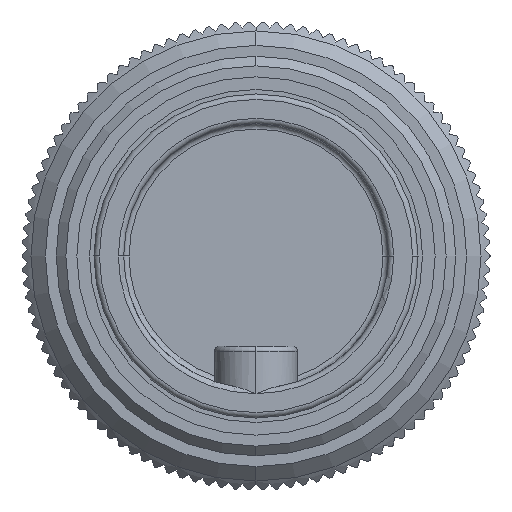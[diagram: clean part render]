
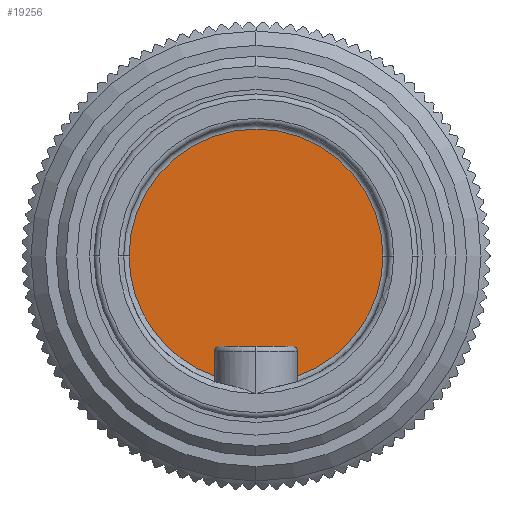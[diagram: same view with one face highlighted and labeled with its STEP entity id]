
A CAD part, front view. The second image highlights one B-rep face of the part: STEP entity #19256.
In plain terms, the highlighted planar face has unit normal (0, -1, 0).
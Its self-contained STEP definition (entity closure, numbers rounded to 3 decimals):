
#569 = DIRECTION ( 'NONE',  ( 1., 0., 0. ) ) ;
#680 = EDGE_CURVE ( 'NONE', #8877, #2354, #2037, .T. ) ;
#1071 = CARTESIAN_POINT ( 'NONE',  ( 0., -2.177, 0. ) ) ;
#1124 = CARTESIAN_POINT ( 'NONE',  ( -3.525, -2.177, -5. ) ) ;
#1582 = VECTOR ( 'NONE', #5719, 1000. ) ;
#2037 = LINE ( 'NONE', #15277, #16325 ) ;
#2046 = AXIS2_PLACEMENT_3D ( 'NONE', #4846, #15487, #6382 ) ;
#2069 = LINE ( 'NONE', #1124, #1582 ) ;
#2104 = VECTOR ( 'NONE', #13968, 1000. ) ;
#2354 = VERTEX_POINT ( 'NONE', #19183 ) ;
#2531 = DIRECTION ( 'NONE',  ( 0., -1., 0. ) ) ;
#2609 = DIRECTION ( 'NONE',  ( 1., 0., 0. ) ) ;
#2700 = EDGE_CURVE ( 'NONE', #4603, #7953, #2069, .T. ) ;
#3757 = CIRCLE ( 'NONE', #11935, 0.3 ) ;
#3804 = ORIENTED_EDGE ( 'NONE', *, *, #16288, .F. ) ;
#4158 = ORIENTED_EDGE ( 'NONE', *, *, #14386, .T. ) ;
#4603 = VERTEX_POINT ( 'NONE', #12903 ) ;
#4640 = DIRECTION ( 'NONE',  ( 0., 0., -1. ) ) ;
#4846 = CARTESIAN_POINT ( 'NONE',  ( 0., -2.177, 0. ) ) ;
#4861 = CARTESIAN_POINT ( 'NONE',  ( -2.3, -2.177, 0. ) ) ;
#5447 = ORIENTED_EDGE ( 'NONE', *, *, #8343, .F. ) ;
#5676 = CARTESIAN_POINT ( 'NONE',  ( -7.05, -2.177, 0. ) ) ;
#5719 = DIRECTION ( 'NONE',  ( 1., 0., 0. ) ) ;
#6382 = DIRECTION ( 'NONE',  ( 1., 0., 0. ) ) ;
#6383 = CARTESIAN_POINT ( 'NONE',  ( 0., -2.177, 0. ) ) ;
#6915 = DIRECTION ( 'NONE',  ( 1., 0., 0. ) ) ;
#7514 = AXIS2_PLACEMENT_3D ( 'NONE', #11410, #16028, #6915 ) ;
#7735 = CIRCLE ( 'NONE', #16008, 7.05 ) ;
#7901 = DIRECTION ( 'NONE',  ( 1., 0., 0. ) ) ;
#7953 = VERTEX_POINT ( 'NONE', #8328 ) ;
#8198 = AXIS2_PLACEMENT_3D ( 'NONE', #6383, #17001, #7901 ) ;
#8308 = CARTESIAN_POINT ( 'NONE',  ( 2.3, -2.177, -5.3 ) ) ;
#8328 = CARTESIAN_POINT ( 'NONE',  ( 2., -2.177, -5. ) ) ;
#8343 = EDGE_CURVE ( 'NONE', #14898, #18788, #9765, .T. ) ;
#8739 = EDGE_LOOP ( 'NONE', ( #4158, #16033, #13840, #13740, #18569, #12755, #3804, #5447 ) ) ;
#8877 = VERTEX_POINT ( 'NONE', #8308 ) ;
#9676 = DIRECTION ( 'NONE',  ( 0., -1., 0. ) ) ;
#9765 = CIRCLE ( 'NONE', #8198, 7.05 ) ;
#11410 = CARTESIAN_POINT ( 'NONE',  ( -3.525, -2.177, 0. ) ) ;
#11623 = VERTEX_POINT ( 'NONE', #16893 ) ;
#11628 = CARTESIAN_POINT ( 'NONE',  ( 2., -2.177, -5.3 ) ) ;
#11694 = DIRECTION ( 'NONE',  ( 0., 1., 0. ) ) ;
#11822 = EDGE_CURVE ( 'NONE', #11623, #2354, #7735, .T. ) ;
#11935 = AXIS2_PLACEMENT_3D ( 'NONE', #11628, #2531, #13152 ) ;
#12738 = EDGE_CURVE ( 'NONE', #4603, #19700, #15926, .T. ) ;
#12755 = ORIENTED_EDGE ( 'NONE', *, *, #11822, .F. ) ;
#12903 = CARTESIAN_POINT ( 'NONE',  ( -2., -2.177, -5. ) ) ;
#13152 = DIRECTION ( 'NONE',  ( 1., 0., 0. ) ) ;
#13404 = EDGE_CURVE ( 'NONE', #8877, #7953, #3757, .T. ) ;
#13740 = ORIENTED_EDGE ( 'NONE', *, *, #13404, .F. ) ;
#13840 = ORIENTED_EDGE ( 'NONE', *, *, #2700, .T. ) ;
#13968 = DIRECTION ( 'NONE',  ( 0., 0., 1. ) ) ;
#14386 = EDGE_CURVE ( 'NONE', #14898, #19700, #17795, .T. ) ;
#14495 = PLANE ( 'NONE',  #7514 ) ;
#14854 = AXIS2_PLACEMENT_3D ( 'NONE', #18786, #9676, #569 ) ;
#14898 = VERTEX_POINT ( 'NONE', #16872 ) ;
#15277 = CARTESIAN_POINT ( 'NONE',  ( 2.3, -2.177, 0. ) ) ;
#15487 = DIRECTION ( 'NONE',  ( 0., 1., 0. ) ) ;
#15926 = CIRCLE ( 'NONE', #14854, 0.3 ) ;
#15947 = CARTESIAN_POINT ( 'NONE',  ( -2.3, -2.177, -5.3 ) ) ;
#16008 = AXIS2_PLACEMENT_3D ( 'NONE', #1071, #11694, #2609 ) ;
#16022 = FACE_OUTER_BOUND ( 'NONE', #8739, .T. ) ;
#16028 = DIRECTION ( 'NONE',  ( 0., -1., 0. ) ) ;
#16033 = ORIENTED_EDGE ( 'NONE', *, *, #12738, .F. ) ;
#16288 = EDGE_CURVE ( 'NONE', #18788, #11623, #19625, .T. ) ;
#16325 = VECTOR ( 'NONE', #4640, 1000. ) ;
#16872 = CARTESIAN_POINT ( 'NONE',  ( -2.3, -2.177, -6.664 ) ) ;
#16893 = CARTESIAN_POINT ( 'NONE',  ( 7.05, -2.177, 0. ) ) ;
#17001 = DIRECTION ( 'NONE',  ( 0., 1., 0. ) ) ;
#17795 = LINE ( 'NONE', #4861, #2104 ) ;
#18569 = ORIENTED_EDGE ( 'NONE', *, *, #680, .T. ) ;
#18786 = CARTESIAN_POINT ( 'NONE',  ( -2., -2.177, -5.3 ) ) ;
#18788 = VERTEX_POINT ( 'NONE', #5676 ) ;
#19183 = CARTESIAN_POINT ( 'NONE',  ( 2.3, -2.177, -6.664 ) ) ;
#19256 = ADVANCED_FACE ( 'NONE', ( #16022 ), #14495, .T. ) ;
#19625 = CIRCLE ( 'NONE', #2046, 7.05 ) ;
#19700 = VERTEX_POINT ( 'NONE', #15947 ) ;
